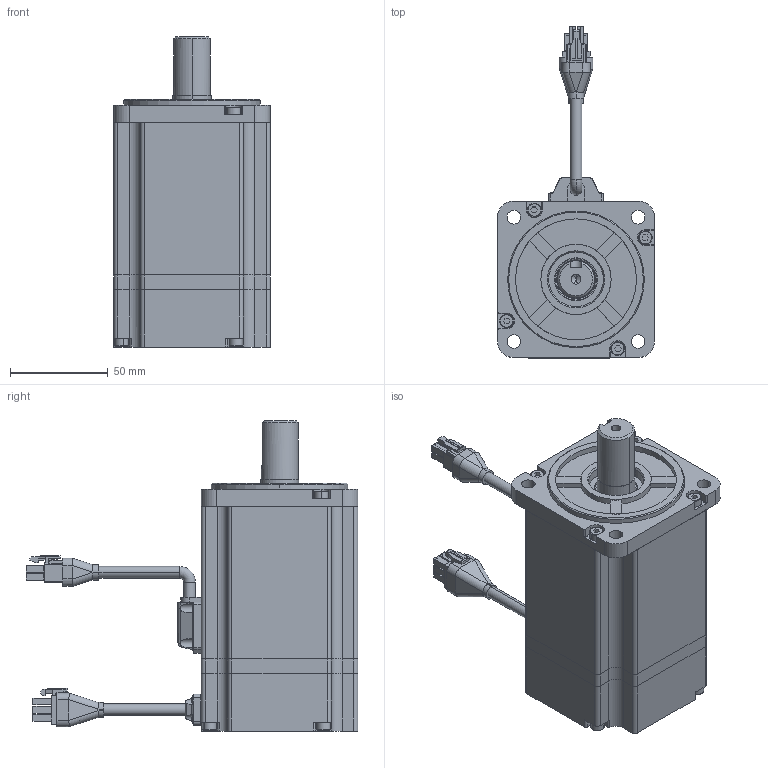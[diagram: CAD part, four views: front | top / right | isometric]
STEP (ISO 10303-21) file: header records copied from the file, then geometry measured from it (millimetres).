
FILE_DESCRIPTION (( 'STEP AP203' ), '1' );
FILE_NAME ('750w.STEP', '2019-03-23T09:57:12', ( '1' ), ( 'MideaGroup IT' ), 'SwSTEP 2.0', 'SolidWorks 2012', '' );
FILE_SCHEMA (( 'CONFIG_CONTROL_DESIGN' ));
Length unit declared in the file: millimetre
Products named in the file (20): 750w; 毀嚏盄揤裔郪璃; 毀嚏盄傷赽揤裔; 晤鎢ん盄傷赽; 晤鎢ん盄揤裔躇猾; 晤鎢ん盄揤裔; 雄薯盄揤裔郪璃; 雄薯盄傷赽裔; M2.5X5_GB_CROSS_SCREWS_TYPE3 M2.5X8-8-N; 雄薯盄; 雄薯盄傷赽; 雄薯盄躇猾菜; 雄薯盄揤裔; 萇儂粣-001; 6004_Rolling bearings 6004 GB 276-94; M4x20; 綴裔-001; ヶ傷裔-001; 綴傷裔-001; 儂褲-001
Assembly tree (33 placements, depth 3):
  750w
    儂褲-001
    綴傷裔-001
    ヶ傷裔-001
    綴裔-001
    M4x20  x8
    6004_Rolling bearings 6004 GB 276-94
    萇儂粣-001
    雄薯盄揤裔郪璃
      雄薯盄揤裔
      雄薯盄躇猾菜
      雄薯盄傷赽
      雄薯盄
      M2.5X5_GB_CROSS_SCREWS_TYPE3 M2.5X8-8-N  x4
      雄薯盄傷赽裔
    毀嚏盄揤裔郪璃
      晤鎢ん盄揤裔
      晤鎢ん盄揤裔躇猾
      晤鎢ん盄傷赽
      M2.5X5_GB_CROSS_SCREWS_TYPE3 M2.5X8-8-N  x4
      毀嚏盄傷赽揤裔
Bounding box: 80.2 x 170 x 159 mm (x, y, z)
Volume: 292480.9 mm3; surface area: 150690.8 mm2
Topology: 33 solids, 59 shells, 1541 faces, 4361 edges, 2904 vertices
Faces by surface type: plane 723, cylinder 584, cone 97, torus 75, sphere 48, bspline 14
Entity records: 46470 total; most frequent: CARTESIAN_POINT 11351, DIRECTION 6830, ORIENTED_EDGE 6709, EDGE_CURVE 3535, AXIS2_PLACEMENT_3D 2457, VERTEX_POINT 2364, LINE 1916, VECTOR 1916
